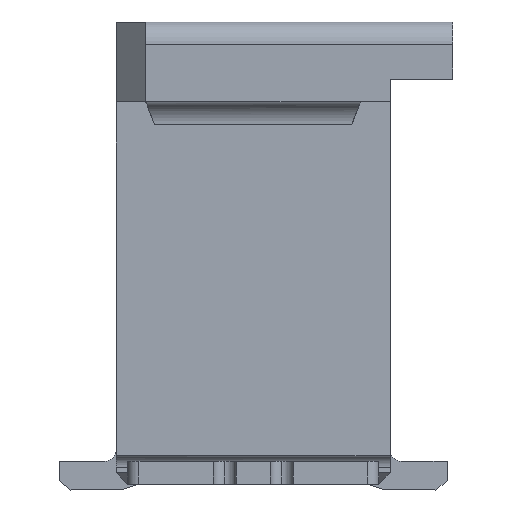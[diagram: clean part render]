
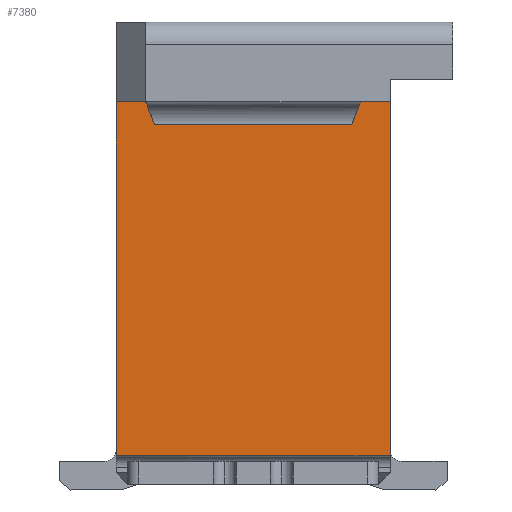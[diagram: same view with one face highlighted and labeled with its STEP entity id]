
A CAD part, left-side view. The second image highlights one B-rep face of the part: STEP entity #7380.
In plain terms, the highlighted planar face has unit normal (-1, 0, 0).
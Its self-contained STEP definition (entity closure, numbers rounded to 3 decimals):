
#34 = CARTESIAN_POINT ( 'NONE',  ( -3.45, -0.94, 3.35 ) ) ;
#151 = VERTEX_POINT ( 'NONE', #3682 ) ;
#233 = CARTESIAN_POINT ( 'NONE',  ( -3.45, -1.2, 3.35 ) ) ;
#313 = VERTEX_POINT ( 'NONE', #233 ) ;
#839 = VERTEX_POINT ( 'NONE', #34 ) ;
#1283 = DIRECTION ( 'NONE',  ( 0., 0., -1. ) ) ;
#1296 = EDGE_CURVE ( 'NONE', #313, #839, #5868, .T. ) ;
#1478 = VECTOR ( 'NONE', #8444, 1000. ) ;
#1508 = DIRECTION ( 'NONE',  ( 0., -0.355, -0.935 ) ) ;
#1601 = EDGE_CURVE ( 'NONE', #7134, #151, #6261, .T. ) ;
#1967 = EDGE_CURVE ( 'NONE', #1980, #5095, #3289, .T. ) ;
#1980 = VERTEX_POINT ( 'NONE', #2138 ) ;
#2054 = VERTEX_POINT ( 'NONE', #2250 ) ;
#2138 = CARTESIAN_POINT ( 'NONE',  ( -3.45, 0.94, 3.35 ) ) ;
#2145 = B_SPLINE_CURVE_WITH_KNOTS ( 'NONE', 3,
 ( #8206, #7485, #5622, #3637 ),
 .UNSPECIFIED., .F., .F.,
 ( 4, 4 ),
 ( 0.07, 0.108 ),
 .UNSPECIFIED. ) ;
#2167 = VECTOR ( 'NONE', #3926, 1000. ) ;
#2221 = LINE ( 'NONE', #3515, #5722 ) ;
#2250 = CARTESIAN_POINT ( 'NONE',  ( -3.45, 1.2, 3.35 ) ) ;
#2445 = CARTESIAN_POINT ( 'NONE',  ( -3.45, -0.864, 3.15 ) ) ;
#2495 = ORIENTED_EDGE ( 'NONE', *, *, #5512, .F. ) ;
#2521 = EDGE_LOOP ( 'NONE', ( #4081, #4967, #2495, #7829, #2760, #4117, #2815, #8161, #5120 ) ) ;
#2544 = DIRECTION ( 'NONE',  ( 0., 0., 1. ) ) ;
#2705 = VERTEX_POINT ( 'NONE', #2445 ) ;
#2727 = CARTESIAN_POINT ( 'NONE',  ( -3.45, 1.2, 0.25 ) ) ;
#2760 = ORIENTED_EDGE ( 'NONE', *, *, #1967, .F. ) ;
#2815 = ORIENTED_EDGE ( 'NONE', *, *, #3853, .F. ) ;
#2983 = CARTESIAN_POINT ( 'NONE',  ( -3.45, 4.83, 0.25 ) ) ;
#3276 = VERTEX_POINT ( 'NONE', #4473 ) ;
#3289 = LINE ( 'NONE', #6699, #7605 ) ;
#3496 = EDGE_CURVE ( 'NONE', #5095, #2705, #2221, .T. ) ;
#3515 = CARTESIAN_POINT ( 'NONE',  ( -3.45, 1.2, 3.15 ) ) ;
#3613 = LINE ( 'NONE', #7836, #4760 ) ;
#3637 = CARTESIAN_POINT ( 'NONE',  ( -3.45, 0.94, 3.35 ) ) ;
#3682 = CARTESIAN_POINT ( 'NONE',  ( -3.45, -1.2, 0.25 ) ) ;
#3853 = EDGE_CURVE ( 'NONE', #2054, #3276, #5304, .T. ) ;
#3917 = CARTESIAN_POINT ( 'NONE',  ( -3.45, -1.2, 3.35 ) ) ;
#3926 = DIRECTION ( 'NONE',  ( 0., 1., 0. ) ) ;
#4031 = CARTESIAN_POINT ( 'NONE',  ( -3.45, 0.864, 3.15 ) ) ;
#4081 = ORIENTED_EDGE ( 'NONE', *, *, #7642, .T. ) ;
#4117 = ORIENTED_EDGE ( 'NONE', *, *, #5729, .F. ) ;
#4176 = DIRECTION ( 'NONE',  ( 0., -1., 0. ) ) ;
#4288 = PLANE ( 'NONE',  #8357 ) ;
#4289 = DIRECTION ( 'NONE',  ( 0., -1., 0. ) ) ;
#4467 = DIRECTION ( 'NONE',  ( 0., 0., 1. ) ) ;
#4473 = CARTESIAN_POINT ( 'NONE',  ( -3.45, 1.033, 3.35 ) ) ;
#4602 = DIRECTION ( 'NONE',  ( 0., -1., 0. ) ) ;
#4760 = VECTOR ( 'NONE', #1283, 1000. ) ;
#4967 = ORIENTED_EDGE ( 'NONE', *, *, #1296, .T. ) ;
#5095 = VERTEX_POINT ( 'NONE', #4031 ) ;
#5120 = ORIENTED_EDGE ( 'NONE', *, *, #1601, .T. ) ;
#5256 = CARTESIAN_POINT ( 'NONE',  ( -3.45, 4.83, 3.35 ) ) ;
#5304 = LINE ( 'NONE', #5256, #5403 ) ;
#5344 = VECTOR ( 'NONE', #4289, 1000. ) ;
#5403 = VECTOR ( 'NONE', #4602, 1000. ) ;
#5499 = LINE ( 'NONE', #3917, #7227 ) ;
#5512 = EDGE_CURVE ( 'NONE', #2705, #839, #7539, .T. ) ;
#5622 = CARTESIAN_POINT ( 'NONE',  ( -3.45, 0.971, 3.35 ) ) ;
#5722 = VECTOR ( 'NONE', #4176, 1000. ) ;
#5729 = EDGE_CURVE ( 'NONE', #3276, #1980, #2145, .T. ) ;
#5868 = LINE ( 'NONE', #6506, #2167 ) ;
#6261 = LINE ( 'NONE', #2983, #5344 ) ;
#6352 = CARTESIAN_POINT ( 'NONE',  ( -3.45, 4.83, 3.35 ) ) ;
#6506 = CARTESIAN_POINT ( 'NONE',  ( -3.45, 4.83, 3.35 ) ) ;
#6648 = EDGE_CURVE ( 'NONE', #2054, #7134, #3613, .T. ) ;
#6699 = CARTESIAN_POINT ( 'NONE',  ( -3.45, 1.431, 4.642 ) ) ;
#6983 = FACE_OUTER_BOUND ( 'NONE', #2521, .T. ) ;
#7134 = VERTEX_POINT ( 'NONE', #2727 ) ;
#7227 = VECTOR ( 'NONE', #2544, 1000. ) ;
#7380 = ADVANCED_FACE ( 'NONE', ( #6983 ), #4288, .F. ) ;
#7485 = CARTESIAN_POINT ( 'NONE',  ( -3.45, 1.002, 3.35 ) ) ;
#7539 = LINE ( 'NONE', #8390, #1478 ) ;
#7605 = VECTOR ( 'NONE', #1508, 1000. ) ;
#7642 = EDGE_CURVE ( 'NONE', #151, #313, #5499, .T. ) ;
#7829 = ORIENTED_EDGE ( 'NONE', *, *, #3496, .F. ) ;
#7836 = CARTESIAN_POINT ( 'NONE',  ( -3.45, 1.2, 3.35 ) ) ;
#8161 = ORIENTED_EDGE ( 'NONE', *, *, #6648, .T. ) ;
#8206 = CARTESIAN_POINT ( 'NONE',  ( -3.45, 1.033, 3.35 ) ) ;
#8357 = AXIS2_PLACEMENT_3D ( 'NONE', #6352, #8393, #4467 ) ;
#8390 = CARTESIAN_POINT ( 'NONE',  ( -3.45, -0.212, 1.434 ) ) ;
#8393 = DIRECTION ( 'NONE',  ( 1., 0., 0. ) ) ;
#8444 = DIRECTION ( 'NONE',  ( 0., -0.355, 0.935 ) ) ;
